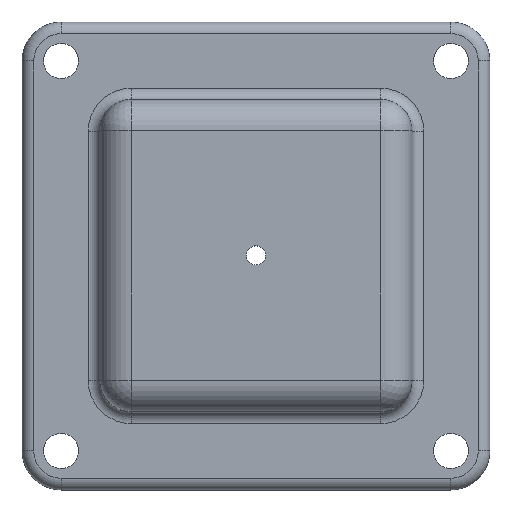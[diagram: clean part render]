
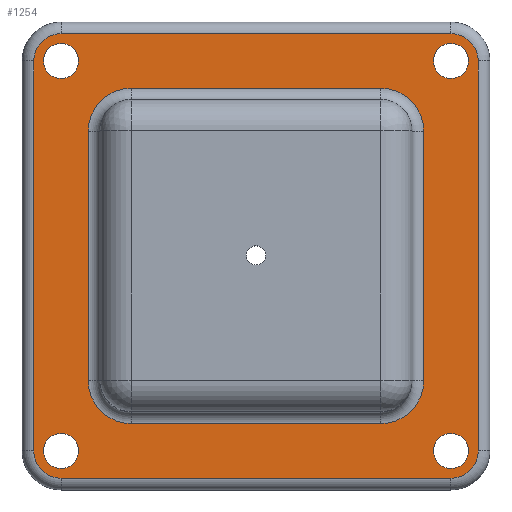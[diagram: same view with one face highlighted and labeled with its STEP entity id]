
A CAD part, top view. The second image highlights one B-rep face of the part: STEP entity #1254.
In plain terms, the highlighted planar face has unit normal (0, 0, 1).
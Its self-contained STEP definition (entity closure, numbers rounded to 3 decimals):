
#44=LINE('',#2093,#108);
#46=LINE('',#2105,#110);
#48=LINE('',#2117,#112);
#50=LINE('',#2126,#114);
#58=LINE('',#2150,#122);
#59=LINE('',#2154,#123);
#60=LINE('',#2158,#124);
#61=LINE('',#2161,#125);
#108=VECTOR('',#1689,64.);
#110=VECTOR('',#1703,64.);
#112=VECTOR('',#1717,64.);
#114=VECTOR('',#1729,64.);
#122=VECTOR('',#1753,100.);
#123=VECTOR('',#1756,100.);
#124=VECTOR('',#1759,100.);
#125=VECTOR('',#1762,100.);
#168=PLANE('',#1407);
#247=FACE_BOUND('',#436,.T.);
#248=FACE_BOUND('',#437,.T.);
#249=FACE_BOUND('',#438,.T.);
#250=FACE_BOUND('',#439,.T.);
#251=FACE_BOUND('',#440,.T.);
#321=FACE_OUTER_BOUND('',#435,.T.);
#435=EDGE_LOOP('',(#1024,#1025,#1026,#1027,#1028,#1029,#1030,#1031));
#436=EDGE_LOOP('',(#1032));
#437=EDGE_LOOP('',(#1033));
#438=EDGE_LOOP('',(#1034));
#439=EDGE_LOOP('',(#1035));
#440=EDGE_LOOP('',(#1036,#1037,#1038,#1039,#1040,#1041,#1042,#1043));
#535=CIRCLE('',#1379,11.);
#541=CIRCLE('',#1387,11.);
#545=CIRCLE('',#1393,11.);
#549=CIRCLE('',#1399,11.);
#552=CIRCLE('',#1408,7.);
#553=CIRCLE('',#1409,7.);
#554=CIRCLE('',#1410,7.);
#555=CIRCLE('',#1411,7.);
#556=CIRCLE('',#1412,4.5);
#557=CIRCLE('',#1413,4.5);
#558=CIRCLE('',#1414,4.5);
#559=CIRCLE('',#1415,4.5);
#639=VERTEX_POINT('',#2081);
#640=VERTEX_POINT('',#2083);
#642=VERTEX_POINT('',#2089);
#644=VERTEX_POINT('',#2095);
#646=VERTEX_POINT('',#2101);
#648=VERTEX_POINT('',#2107);
#650=VERTEX_POINT('',#2113);
#652=VERTEX_POINT('',#2119);
#659=VERTEX_POINT('',#2146);
#660=VERTEX_POINT('',#2147);
#661=VERTEX_POINT('',#2149);
#662=VERTEX_POINT('',#2151);
#663=VERTEX_POINT('',#2153);
#664=VERTEX_POINT('',#2155);
#665=VERTEX_POINT('',#2157);
#666=VERTEX_POINT('',#2159);
#667=VERTEX_POINT('',#2162);
#668=VERTEX_POINT('',#2164);
#669=VERTEX_POINT('',#2166);
#670=VERTEX_POINT('',#2168);
#763=EDGE_CURVE('',#639,#640,#535,.T.);
#768=EDGE_CURVE('',#640,#642,#44,.T.);
#771=EDGE_CURVE('',#642,#644,#541,.T.);
#774=EDGE_CURVE('',#644,#646,#46,.T.);
#777=EDGE_CURVE('',#646,#648,#545,.T.);
#780=EDGE_CURVE('',#648,#650,#48,.T.);
#783=EDGE_CURVE('',#650,#652,#549,.T.);
#785=EDGE_CURVE('',#652,#639,#50,.T.);
#795=EDGE_CURVE('',#659,#660,#552,.T.);
#796=EDGE_CURVE('',#661,#659,#58,.T.);
#797=EDGE_CURVE('',#662,#661,#553,.T.);
#798=EDGE_CURVE('',#663,#662,#59,.T.);
#799=EDGE_CURVE('',#664,#663,#554,.T.);
#800=EDGE_CURVE('',#665,#664,#60,.T.);
#801=EDGE_CURVE('',#666,#665,#555,.T.);
#802=EDGE_CURVE('',#660,#666,#61,.T.);
#803=EDGE_CURVE('',#667,#667,#556,.T.);
#804=EDGE_CURVE('',#668,#668,#557,.T.);
#805=EDGE_CURVE('',#669,#669,#558,.T.);
#806=EDGE_CURVE('',#670,#670,#559,.T.);
#1024=ORIENTED_EDGE('',*,*,#795,.F.);
#1025=ORIENTED_EDGE('',*,*,#796,.F.);
#1026=ORIENTED_EDGE('',*,*,#797,.F.);
#1027=ORIENTED_EDGE('',*,*,#798,.F.);
#1028=ORIENTED_EDGE('',*,*,#799,.F.);
#1029=ORIENTED_EDGE('',*,*,#800,.F.);
#1030=ORIENTED_EDGE('',*,*,#801,.F.);
#1031=ORIENTED_EDGE('',*,*,#802,.F.);
#1032=ORIENTED_EDGE('',*,*,#803,.T.);
#1033=ORIENTED_EDGE('',*,*,#804,.T.);
#1034=ORIENTED_EDGE('',*,*,#805,.T.);
#1035=ORIENTED_EDGE('',*,*,#806,.T.);
#1036=ORIENTED_EDGE('',*,*,#763,.F.);
#1037=ORIENTED_EDGE('',*,*,#785,.F.);
#1038=ORIENTED_EDGE('',*,*,#783,.F.);
#1039=ORIENTED_EDGE('',*,*,#780,.F.);
#1040=ORIENTED_EDGE('',*,*,#777,.F.);
#1041=ORIENTED_EDGE('',*,*,#774,.F.);
#1042=ORIENTED_EDGE('',*,*,#771,.F.);
#1043=ORIENTED_EDGE('',*,*,#768,.F.);
#1254=ADVANCED_FACE('',(#321,#247,#248,#249,#250,#251),#168,.T.);
#1379=AXIS2_PLACEMENT_3D('',#2084,#1678,#1679);
#1387=AXIS2_PLACEMENT_3D('',#2099,#1696,#1697);
#1393=AXIS2_PLACEMENT_3D('',#2111,#1710,#1711);
#1399=AXIS2_PLACEMENT_3D('',#2123,#1724,#1725);
#1407=AXIS2_PLACEMENT_3D('',#2145,#1749,#1750);
#1408=AXIS2_PLACEMENT_3D('',#2148,#1751,#1752);
#1409=AXIS2_PLACEMENT_3D('',#2152,#1754,#1755);
#1410=AXIS2_PLACEMENT_3D('',#2156,#1757,#1758);
#1411=AXIS2_PLACEMENT_3D('',#2160,#1760,#1761);
#1412=AXIS2_PLACEMENT_3D('',#2163,#1763,#1764);
#1413=AXIS2_PLACEMENT_3D('',#2165,#1765,#1766);
#1414=AXIS2_PLACEMENT_3D('',#2167,#1767,#1768);
#1415=AXIS2_PLACEMENT_3D('',#2169,#1769,#1770);
#1678=DIRECTION('center_axis',(0.,0.,1.));
#1679=DIRECTION('ref_axis',(0.707,-0.707,0.));
#1689=DIRECTION('',(0.,1.,0.));
#1696=DIRECTION('center_axis',(0.,0.,1.));
#1697=DIRECTION('ref_axis',(0.707,0.707,0.));
#1703=DIRECTION('',(-1.,0.,0.));
#1710=DIRECTION('center_axis',(0.,0.,1.));
#1711=DIRECTION('ref_axis',(-0.707,0.707,0.));
#1717=DIRECTION('',(0.,-1.,0.));
#1724=DIRECTION('center_axis',(0.,0.,1.));
#1725=DIRECTION('ref_axis',(-0.707,-0.707,0.));
#1729=DIRECTION('',(1.,0.,0.));
#1749=DIRECTION('center_axis',(0.,0.,1.));
#1750=DIRECTION('ref_axis',(1.,0.,0.));
#1751=DIRECTION('center_axis',(0.,0.,-1.));
#1752=DIRECTION('ref_axis',(0.707,-0.707,0.));
#1753=DIRECTION('',(0.,-1.,0.));
#1754=DIRECTION('center_axis',(0.,0.,-1.));
#1755=DIRECTION('ref_axis',(0.707,0.707,0.));
#1756=DIRECTION('',(1.,0.,0.));
#1757=DIRECTION('center_axis',(0.,0.,-1.));
#1758=DIRECTION('ref_axis',(-0.707,0.707,0.));
#1759=DIRECTION('',(0.,1.,0.));
#1760=DIRECTION('center_axis',(0.,0.,-1.));
#1761=DIRECTION('ref_axis',(-0.707,-0.707,0.));
#1762=DIRECTION('',(-1.,0.,0.));
#1763=DIRECTION('center_axis',(0.,0.,-1.));
#1764=DIRECTION('ref_axis',(1.,0.,0.));
#1765=DIRECTION('center_axis',(0.,0.,-1.));
#1766=DIRECTION('ref_axis',(1.,0.,0.));
#1767=DIRECTION('center_axis',(0.,0.,-1.));
#1768=DIRECTION('ref_axis',(1.,0.,0.));
#1769=DIRECTION('center_axis',(0.,0.,-1.));
#1770=DIRECTION('ref_axis',(1.,0.,0.));
#2081=CARTESIAN_POINT('',(32.,-43.,10.));
#2083=CARTESIAN_POINT('',(43.,-32.,10.));
#2084=CARTESIAN_POINT('Origin',(32.,-32.,10.));
#2089=CARTESIAN_POINT('',(43.,32.,10.));
#2093=CARTESIAN_POINT('',(43.,-20.,10.));
#2095=CARTESIAN_POINT('',(32.,43.,10.));
#2099=CARTESIAN_POINT('Origin',(32.,32.,10.));
#2101=CARTESIAN_POINT('',(-32.,43.,10.));
#2105=CARTESIAN_POINT('',(20.,43.,10.));
#2107=CARTESIAN_POINT('',(-43.,32.,10.));
#2111=CARTESIAN_POINT('Origin',(-32.,32.,10.));
#2113=CARTESIAN_POINT('',(-43.,-32.,10.));
#2117=CARTESIAN_POINT('',(-43.,20.,10.));
#2119=CARTESIAN_POINT('',(-32.,-43.,10.));
#2123=CARTESIAN_POINT('Origin',(-32.,-32.,10.));
#2126=CARTESIAN_POINT('',(-20.,-43.,10.));
#2145=CARTESIAN_POINT('Origin',(0.,0.,10.));
#2146=CARTESIAN_POINT('',(57.,-50.,10.));
#2147=CARTESIAN_POINT('',(50.,-57.,10.));
#2148=CARTESIAN_POINT('Origin',(50.,-50.,10.));
#2149=CARTESIAN_POINT('',(57.,50.,10.));
#2150=CARTESIAN_POINT('',(57.,-30.,10.));
#2151=CARTESIAN_POINT('',(50.,57.,10.));
#2152=CARTESIAN_POINT('Origin',(50.,50.,10.));
#2153=CARTESIAN_POINT('',(-50.,57.,10.));
#2154=CARTESIAN_POINT('',(30.,57.,10.));
#2155=CARTESIAN_POINT('',(-57.,50.,10.));
#2156=CARTESIAN_POINT('Origin',(-50.,50.,10.));
#2157=CARTESIAN_POINT('',(-57.,-50.,10.));
#2158=CARTESIAN_POINT('',(-57.,30.,10.));
#2159=CARTESIAN_POINT('',(-50.,-57.,10.));
#2160=CARTESIAN_POINT('Origin',(-50.,-50.,10.));
#2161=CARTESIAN_POINT('',(-30.,-57.,10.));
#2162=CARTESIAN_POINT('',(-45.5,50.,10.));
#2163=CARTESIAN_POINT('Origin',(-50.,50.,10.));
#2164=CARTESIAN_POINT('',(54.5,50.,10.));
#2165=CARTESIAN_POINT('Origin',(50.,50.,10.));
#2166=CARTESIAN_POINT('',(54.5,-50.,10.));
#2167=CARTESIAN_POINT('Origin',(50.,-50.,10.));
#2168=CARTESIAN_POINT('',(-45.5,-50.,10.));
#2169=CARTESIAN_POINT('Origin',(-50.,-50.,10.));
